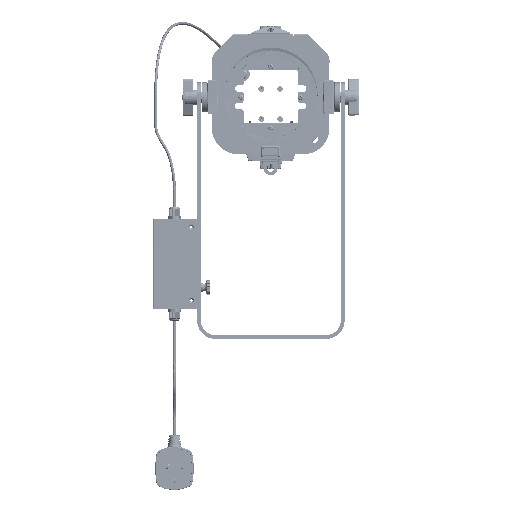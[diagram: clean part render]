
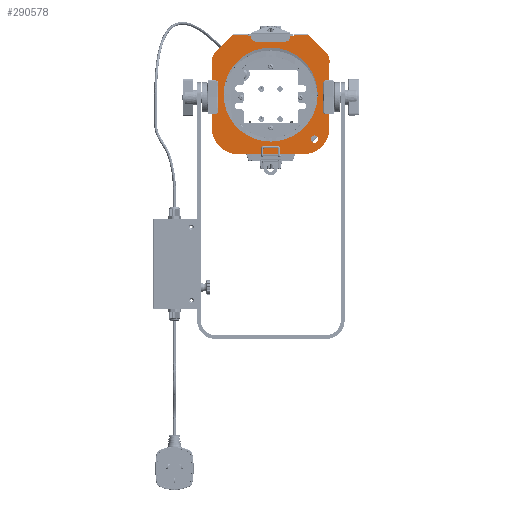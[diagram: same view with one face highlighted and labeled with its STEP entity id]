
A CAD part, front view. The second image highlights one B-rep face of the part: STEP entity #290578.
In plain terms, the highlighted planar face has unit normal (0, -1, 0).
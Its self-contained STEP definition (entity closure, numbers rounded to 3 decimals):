
#289720=CARTESIAN_POINT('',(0.,-0.695,0.));
#289721=DIRECTION('',(0.,1.,0.));
#289722=DIRECTION('',(1.,0.,0.));
#289723=AXIS2_PLACEMENT_3D('',#289720,#289721,#289722);
#289728=CARTESIAN_POINT('',(0.,-0.695,0.));
#289729=DIRECTION('',(0.,1.,0.));
#289730=DIRECTION('',(-1.,0.,0.));
#289731=AXIS2_PLACEMENT_3D('',#289728,#289729,#289730);
#289736=CARTESIAN_POINT('',(46.7,-0.695,-47.3));
#289737=DIRECTION('',(0.,1.,0.));
#289738=DIRECTION('',(1.,0.,0.));
#289739=AXIS2_PLACEMENT_3D('',#289736,#289737,#289738);
#289744=CARTESIAN_POINT('',(46.7,-0.695,-47.3));
#289745=DIRECTION('',(0.,1.,0.));
#289746=DIRECTION('',(-1.,0.,0.));
#289747=AXIS2_PLACEMENT_3D('',#289744,#289745,#289746);
#289752=CARTESIAN_POINT('',(-52.5,-0.695,37.044));
#289753=DIRECTION('',(0.,-1.,0.));
#289754=DIRECTION('',(-0.707,0.,0.707));
#289755=AXIS2_PLACEMENT_3D('',#289752,#289753,#289754);
#289760=DIRECTION('',(-0.707,0.,-0.707));
#289761=VECTOR('',#289760,27.357);
#289762=CARTESIAN_POINT('',(-40.227,-0.695,63.46));
#289763=LINE('',#289762,#289761);
#289767=DIRECTION('',(1.,0.,0.));
#289768=VECTOR('',#289767,15.627);
#289769=CARTESIAN_POINT('',(-40.227,-0.695,63.46));
#289770=LINE('',#289769,#289768);
#289774=DIRECTION('',(0.,0.,-1.));
#289775=VECTOR('',#289774,1.305);
#289776=CARTESIAN_POINT('',(-24.6,-0.695,63.46));
#289777=LINE('',#289776,#289775);
#289781=DIRECTION('',(-1.,0.,0.));
#289782=VECTOR('',#289781,9.);
#289783=CARTESIAN_POINT('',(-15.6,-0.695,62.155));
#289784=LINE('',#289783,#289782);
#289788=DIRECTION('',(0.,0.,-1.));
#289789=VECTOR('',#289788,1.305);
#289790=CARTESIAN_POINT('',(-15.6,-0.695,63.46));
#289791=LINE('',#289790,#289789);
#289795=DIRECTION('',(1.,0.,0.));
#289796=VECTOR('',#289795,31.2);
#289797=CARTESIAN_POINT('',(-15.6,-0.695,63.46));
#289798=LINE('',#289797,#289796);
#289802=DIRECTION('',(0.,0.,-1.));
#289803=VECTOR('',#289802,1.305);
#289804=CARTESIAN_POINT('',(15.6,-0.695,63.46));
#289805=LINE('',#289804,#289803);
#289809=DIRECTION('',(1.,0.,0.));
#289810=VECTOR('',#289809,9.);
#289811=CARTESIAN_POINT('',(15.6,-0.695,62.155));
#289812=LINE('',#289811,#289810);
#289816=DIRECTION('',(0.,0.,-1.));
#289817=VECTOR('',#289816,1.305);
#289818=CARTESIAN_POINT('',(24.6,-0.695,63.46));
#289819=LINE('',#289818,#289817);
#289823=DIRECTION('',(1.,0.,0.));
#289824=VECTOR('',#289823,15.627);
#289825=CARTESIAN_POINT('',(24.6,-0.695,63.46));
#289826=LINE('',#289825,#289824);
#289830=DIRECTION('',(0.707,0.,-0.707));
#289831=VECTOR('',#289830,27.357);
#289832=CARTESIAN_POINT('',(40.227,-0.695,63.46));
#289833=LINE('',#289832,#289831);
#289837=CARTESIAN_POINT('',(52.5,-0.695,37.044));
#289838=DIRECTION('',(0.,-1.,0.));
#289839=DIRECTION('',(1.,0.,0.));
#289840=AXIS2_PLACEMENT_3D('',#289837,#289838,#289839);
#289845=DIRECTION('',(0.,0.,-1.));
#289846=VECTOR('',#289845,72.702);
#289847=CARTESIAN_POINT('',(62.5,-0.695,37.044));
#289848=LINE('',#289847,#289846);
#289852=CARTESIAN_POINT('',(34.698,-0.695,
-35.658));
#289853=DIRECTION('',(0.,-1.,0.));
#289854=DIRECTION('',(0.,0.,-1.));
#289855=AXIS2_PLACEMENT_3D('',#289852,#289853,#289854);
#289860=DIRECTION('',(-1.,0.,0.));
#289861=VECTOR('',#289860,69.395);
#289862=CARTESIAN_POINT('',(34.698,-0.695,-63.46));
#289863=LINE('',#289862,#289861);
#289867=CARTESIAN_POINT('',(-34.698,-0.695,
-35.658));
#289868=DIRECTION('',(0.,-1.,0.));
#289869=DIRECTION('',(-1.,0.,0.));
#289870=AXIS2_PLACEMENT_3D('',#289867,#289868,#289869);
#289875=DIRECTION('',(0.,0.,1.));
#289876=VECTOR('',#289875,72.702);
#289877=CARTESIAN_POINT('',(-62.5,-0.695,-35.658));
#289878=LINE('',#289877,#289876);
#289949=CARTESIAN_POINT('',(40.227,-0.695,63.46));
#289977=CARTESIAN_POINT('',(-40.227,-0.695,63.46));
#290248=CARTESIAN_POINT('',(24.6,-0.695,63.46));
#290249=CARTESIAN_POINT('',(24.6,-0.695,62.155));
#290250=VERTEX_POINT('',#290248);
#290251=VERTEX_POINT('',#290249);
#290252=CARTESIAN_POINT('',(15.6,-0.695,63.46));
#290253=CARTESIAN_POINT('',(15.6,-0.695,62.155));
#290254=VERTEX_POINT('',#290252);
#290255=VERTEX_POINT('',#290253);
#290264=CARTESIAN_POINT('',(-24.6,-0.695,62.155));
#290266=VERTEX_POINT('',#290264);
#290270=CARTESIAN_POINT('',(-15.6,-0.695,62.155));
#290272=VERTEX_POINT('',#290270);
#290288=CARTESIAN_POINT('',(-24.6,-0.695,63.46));
#290289=VERTEX_POINT('',#290288);
#290290=CARTESIAN_POINT('',(-15.6,-0.695,63.46));
#290291=VERTEX_POINT('',#290290);
#290292=CARTESIAN_POINT('',(62.5,-0.695,-35.658));
#290294=VERTEX_POINT('',#290292);
#290302=CARTESIAN_POINT('',(34.698,-0.695,-63.46));
#290303=VERTEX_POINT('',#290302);
#290308=CARTESIAN_POINT('',(-62.5,-0.695,-35.658));
#290309=VERTEX_POINT('',#290308);
#290310=CARTESIAN_POINT('',(-34.698,-0.695,-63.46));
#290311=VERTEX_POINT('',#290310);
#290317=VERTEX_POINT('',#289949);
#290318=VERTEX_POINT('',#289977);
#290324=CARTESIAN_POINT('',(50.,-0.695,0.));
#290325=CARTESIAN_POINT('',(-50.,-0.695,0.));
#290326=VERTEX_POINT('',#290324);
#290327=VERTEX_POINT('',#290325);
#290332=CARTESIAN_POINT('',(50.7,-0.695,-47.3));
#290333=CARTESIAN_POINT('',(42.7,-0.695,-47.3));
#290334=VERTEX_POINT('',#290332);
#290335=VERTEX_POINT('',#290333);
#290342=CARTESIAN_POINT('',(-59.571,-0.695,
44.115));
#290343=CARTESIAN_POINT('',(-62.5,-0.695,37.044));
#290344=VERTEX_POINT('',#290342);
#290345=VERTEX_POINT('',#290343);
#290346=CARTESIAN_POINT('',(62.5,-0.695,37.044));
#290347=CARTESIAN_POINT('',(59.571,-0.695,
44.115));
#290348=VERTEX_POINT('',#290346);
#290349=VERTEX_POINT('',#290347);
#290527=CARTESIAN_POINT('',(62.5,-0.695,63.46));
#290528=DIRECTION('',(0.,1.,0.));
#290529=DIRECTION('',(1.,0.,0.));
#290530=AXIS2_PLACEMENT_3D('',#290527,#290528,#290529);
#290531=PLANE('',#290530);
#290532=ORIENTED_EDGE('',*,*,#290386,.F.);
#290533=ORIENTED_EDGE('',*,*,#290413,.F.);
#290535=ORIENTED_EDGE('',*,*,#290534,.T.);
#290537=ORIENTED_EDGE('',*,*,#290536,.T.);
#290539=ORIENTED_EDGE('',*,*,#290538,.F.);
#290541=ORIENTED_EDGE('',*,*,#290540,.F.);
#290543=ORIENTED_EDGE('',*,*,#290542,.T.);
#290545=ORIENTED_EDGE('',*,*,#290544,.T.);
#290547=ORIENTED_EDGE('',*,*,#290546,.T.);
#290549=ORIENTED_EDGE('',*,*,#290548,.F.);
#290551=ORIENTED_EDGE('',*,*,#290550,.T.);
#290553=ORIENTED_EDGE('',*,*,#290552,.T.);
#290555=ORIENTED_EDGE('',*,*,#290554,.F.);
#290557=ORIENTED_EDGE('',*,*,#290556,.T.);
#290559=ORIENTED_EDGE('',*,*,#290558,.F.);
#290561=ORIENTED_EDGE('',*,*,#290560,.T.);
#290563=ORIENTED_EDGE('',*,*,#290562,.F.);
#290565=ORIENTED_EDGE('',*,*,#290564,.T.);
#290566=EDGE_LOOP('',(#290532,#290533,#290535,#290537,#290539,#290541,#290543,
#290545,#290547,#290549,#290551,#290553,#290555,#290557,#290559,#290561,#290563,
#290565));
#290567=FACE_OUTER_BOUND('',#290566,.F.);
#290569=ORIENTED_EDGE('',*,*,#290568,.F.);
#290571=ORIENTED_EDGE('',*,*,#290570,.F.);
#290572=EDGE_LOOP('',(#290569,#290571));
#290573=FACE_BOUND('',#290572,.F.);
#290574=ORIENTED_EDGE('',*,*,#290493,.F.);
#290575=ORIENTED_EDGE('',*,*,#290514,.F.);
#290576=EDGE_LOOP('',(#290574,#290575));
#290577=FACE_BOUND('',#290576,.F.);
#289724=CIRCLE('',#289723,50.);
#289732=CIRCLE('',#289731,50.);
#289740=CIRCLE('',#289739,4.);
#289748=CIRCLE('',#289747,4.);
#289756=CIRCLE('',#289755,10.);
#289841=CIRCLE('',#289840,10.);
#289856=CIRCLE('',#289855,27.802);
#289871=CIRCLE('',#289870,27.802);
#290386=EDGE_CURVE('',#290344,#290345,#289756,.T.);
#290413=EDGE_CURVE('',#290318,#290344,#289763,.T.);
#290493=EDGE_CURVE('',#290326,#290327,#289724,.T.);
#290514=EDGE_CURVE('',#290327,#290326,#289732,.T.);
#290534=EDGE_CURVE('',#290318,#290289,#289770,.T.);
#290536=EDGE_CURVE('',#290289,#290266,#289777,.T.);
#290538=EDGE_CURVE('',#290272,#290266,#289784,.T.);
#290540=EDGE_CURVE('',#290291,#290272,#289791,.T.);
#290542=EDGE_CURVE('',#290291,#290254,#289798,.T.);
#290544=EDGE_CURVE('',#290254,#290255,#289805,.T.);
#290546=EDGE_CURVE('',#290255,#290251,#289812,.T.);
#290548=EDGE_CURVE('',#290250,#290251,#289819,.T.);
#290550=EDGE_CURVE('',#290250,#290317,#289826,.T.);
#290552=EDGE_CURVE('',#290317,#290349,#289833,.T.);
#290554=EDGE_CURVE('',#290348,#290349,#289841,.T.);
#290556=EDGE_CURVE('',#290348,#290294,#289848,.T.);
#290558=EDGE_CURVE('',#290303,#290294,#289856,.T.);
#290560=EDGE_CURVE('',#290303,#290311,#289863,.T.);
#290562=EDGE_CURVE('',#290309,#290311,#289871,.T.);
#290564=EDGE_CURVE('',#290309,#290345,#289878,.T.);
#290568=EDGE_CURVE('',#290334,#290335,#289740,.T.);
#290570=EDGE_CURVE('',#290335,#290334,#289748,.T.);
#290578=ADVANCED_FACE('',(#290567,#290573,#290577),#290531,.F.);
